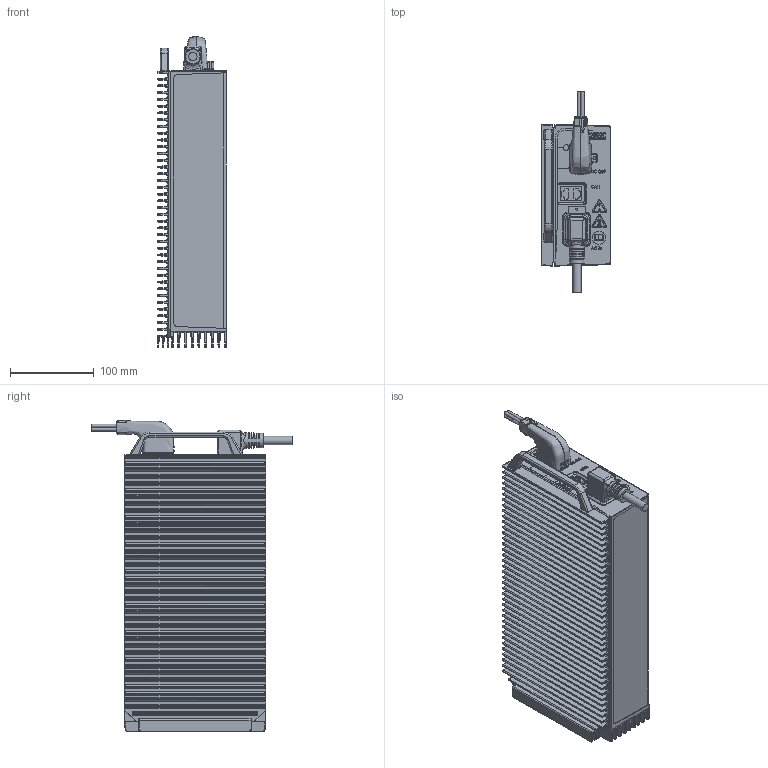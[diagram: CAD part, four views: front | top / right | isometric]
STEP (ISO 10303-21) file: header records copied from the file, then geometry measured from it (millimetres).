
FILE_DESCRIPTION (( 'STEP AP203' ), '1' );
FILE_NAME ('MHE-Rectifiers-3D-Model.STEP', '2026-05-18T08:23:23', ( '' ), ( '' ), 'SwSTEP 2.0', 'SolidWorks 2018', '' );
FILE_SCHEMA (( 'CONFIG_CONTROL_DESIGN' ));
Products named in the file (1): MHE-Rectifiers-3D-Model
Bounding box: 82.5 x 240.14 x 372.53 mm (x, y, z)
Surface area: 435027.2 mm2 (no closed solid volume)
Topology: 0 solids, 4 shells, 2806 faces, 7207 edges, 4441 vertices
Faces by surface type: plane 1055, cylinder 888, bspline 758, torus 64, sphere 22, cone 19
Full cylindrical faces by diameter (mm): 0.38 x2, 1.461 x1, 1.85 x1, 2.5 x1, 3.3 x2, 4 x5, 4.2 x1, 4.25 x2, 6.498 x1, 7.137 x1, 10 x1, 15.875 x1
Entity records: 112116 total; most frequent: CARTESIAN_POINT 50857, ORIENTED_EDGE 13963, DIRECTION 11000, EDGE_CURVE 7145, VERTEX_POINT 4429, LINE 3800, VECTOR 3800, AXIS2_PLACEMENT_3D 3600
